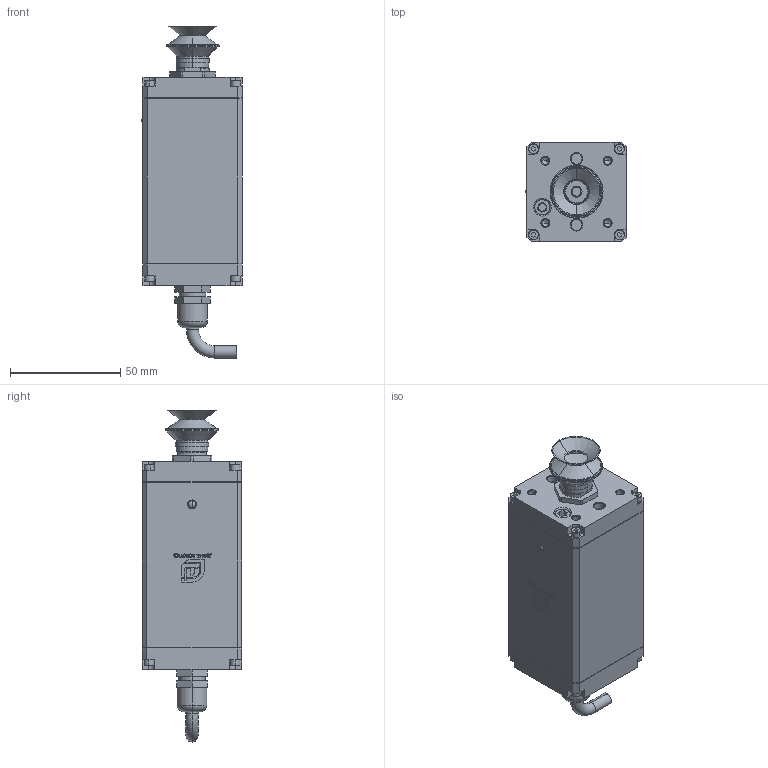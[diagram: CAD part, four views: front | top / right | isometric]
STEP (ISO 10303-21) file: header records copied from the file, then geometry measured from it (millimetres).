
FILE_DESCRIPTION (( 'STEP AP214' ), '1' );
FILE_NAME ('EVS01.STEP', '2022-10-20T02:43:26', ( 'User' ), ( 'China' ), 'SwSTEP 2.0', 'SolidWorks 2016', '' );
FILE_SCHEMA (( 'AUTOMOTIVE_DESIGN' ));
Length unit declared in the file: millimetre
Products named in the file (1): EVS01
Bounding box: 45.5 x 45 x 150.55 mm (x, y, z)
Volume: 194705.6 mm3; surface area: 39099.8 mm2
Topology: 18 solids, 18 shells, 826 faces, 1975 edges, 1235 vertices
Faces by surface type: plane 369, cylinder 164, bspline 132, cone 123, torus 36, sphere 2
Entity records: 34112 total; most frequent: CARTESIAN_POINT 6265, ORIENTED_EDGE 3886, DIRECTION 3595, EDGE_CURVE 1943, VERTEX_POINT 1235, AXIS2_PLACEMENT_3D 1213, VECTOR 1169, LINE 1169
